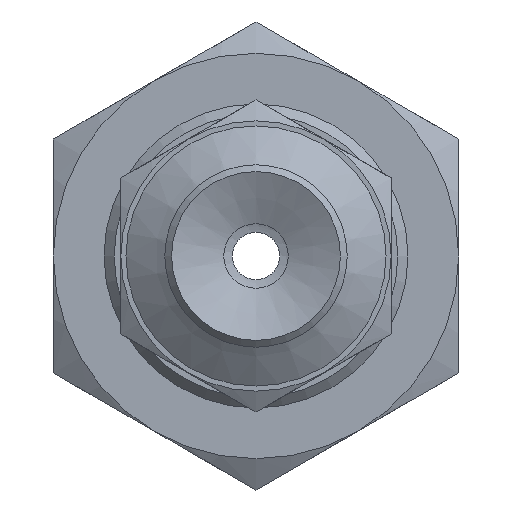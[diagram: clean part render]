
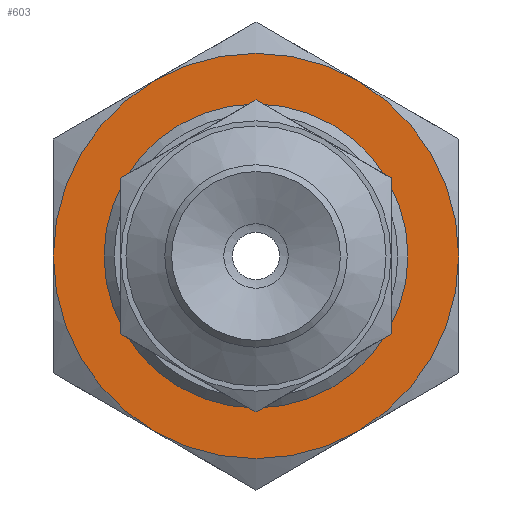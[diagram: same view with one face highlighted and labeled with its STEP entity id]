
A CAD part, front view. The second image highlights one B-rep face of the part: STEP entity #603.
In plain terms, the highlighted planar face has unit normal (0, -1, 0) as drawn and (0, 0, 1) by its records, which use the part's own axes.
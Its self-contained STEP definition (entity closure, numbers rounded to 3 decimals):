
#603=ADVANCED_FACE('',(#802,#803),#804,.T.);
#802=FACE_BOUND('',#1169,.T.);
#803=FACE_OUTER_BOUND('',#1170,.T.);
#804=PLANE('',#1171);
#1169=EDGE_LOOP('',(#1740));
#1170=EDGE_LOOP('',(#1741,#1742,#1743,#1744,#1745,#1746));
#1171=AXIS2_PLACEMENT_3D('',#1747,#1748,#1749);
#1740=ORIENTED_EDGE('',*,*,#2462,.T.);
#1741=ORIENTED_EDGE('',*,*,#2463,.T.);
#1742=ORIENTED_EDGE('',*,*,#2439,.T.);
#1743=ORIENTED_EDGE('',*,*,#2461,.T.);
#1744=ORIENTED_EDGE('',*,*,#2431,.T.);
#1745=ORIENTED_EDGE('',*,*,#2464,.T.);
#1746=ORIENTED_EDGE('',*,*,#2450,.T.);
#1747=CARTESIAN_POINT('',(-6.928,-6.0,3.0));
#1748=DIRECTION('',(0.0,0.0,1.0));
#1749=DIRECTION('',(1.0,0.0,0.0));
#2431=EDGE_CURVE('',#2695,#2686,#2696,.T.);
#2439=EDGE_CURVE('',#2710,#2701,#2711,.T.);
#2450=EDGE_CURVE('',#2729,#2720,#2730,.T.);
#2461=EDGE_CURVE('',#2701,#2695,#2745,.T.);
#2462=EDGE_CURVE('',#2746,#2746,#2747,.T.);
#2463=EDGE_CURVE('',#2720,#2710,#2748,.T.);
#2464=EDGE_CURVE('',#2686,#2729,#2749,.T.);
#2686=VERTEX_POINT('',#3169);
#2695=VERTEX_POINT('',#3191);
#2696=CIRCLE('',#3192,6.0);
#2701=VERTEX_POINT('',#3200);
#2710=VERTEX_POINT('',#3226);
#2711=CIRCLE('',#3227,6.0);
#2720=VERTEX_POINT('',#3249);
#2729=VERTEX_POINT('',#3271);
#2730=CIRCLE('',#3272,6.0);
#2745=CIRCLE('',#3309,6.0);
#2746=VERTEX_POINT('',#3310);
#2747=CIRCLE('',#3311,3.925);
#2748=CIRCLE('',#3312,6.0);
#2749=CIRCLE('',#3313,6.0);
#3169=CARTESIAN_POINT('',(-5.196,-3.0,3.0));
#3191=CARTESIAN_POINT('',(-5.196,3.0,3.0));
#3192=AXIS2_PLACEMENT_3D('',#3697,#3698,#3699);
#3200=CARTESIAN_POINT('',(0.,6.0,3.0));
#3226=CARTESIAN_POINT('',(5.196,3.0,3.0));
#3227=AXIS2_PLACEMENT_3D('',#3702,#3703,#3704);
#3249=CARTESIAN_POINT('',(5.196,-3.0,3.0));
#3271=CARTESIAN_POINT('',(0.,-6.0,3.0));
#3272=AXIS2_PLACEMENT_3D('',#3707,#3708,#3709);
#3309=AXIS2_PLACEMENT_3D('',#3722,#3723,#3724);
#3310=CARTESIAN_POINT('',(3.925,0.0,3.0));
#3311=AXIS2_PLACEMENT_3D('',#3725,#3726,#3727);
#3312=AXIS2_PLACEMENT_3D('',#3728,#3729,#3730);
#3313=AXIS2_PLACEMENT_3D('',#3731,#3732,#3733);
#3697=CARTESIAN_POINT('',(0.,0.0,3.0));
#3698=DIRECTION('',(0.0,0.,1.0));
#3699=DIRECTION('',(0.0,-1.0,0.));
#3702=CARTESIAN_POINT('',(0.,0.0,3.0));
#3703=DIRECTION('',(0.0,0.,1.0));
#3704=DIRECTION('',(0.0,-1.0,0.));
#3707=CARTESIAN_POINT('',(0.,0.0,3.0));
#3708=DIRECTION('',(0.0,0.,1.0));
#3709=DIRECTION('',(0.0,-1.0,0.));
#3722=CARTESIAN_POINT('',(0.,0.0,3.0));
#3723=DIRECTION('',(0.0,0.,1.0));
#3724=DIRECTION('',(0.0,-1.0,0.));
#3725=CARTESIAN_POINT('',(0.0,0.0,3.0));
#3726=DIRECTION('',(0.0,0.0,-1.0));
#3727=DIRECTION('',(1.0,0.0,0.0));
#3728=CARTESIAN_POINT('',(0.,0.0,3.0));
#3729=DIRECTION('',(0.0,0.,1.0));
#3730=DIRECTION('',(0.0,-1.0,0.));
#3731=CARTESIAN_POINT('',(0.,0.0,3.0));
#3732=DIRECTION('',(0.0,0.,1.0));
#3733=DIRECTION('',(0.0,-1.0,0.));
